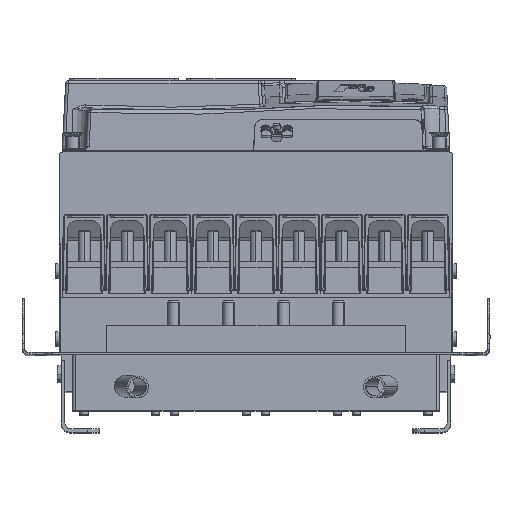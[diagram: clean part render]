
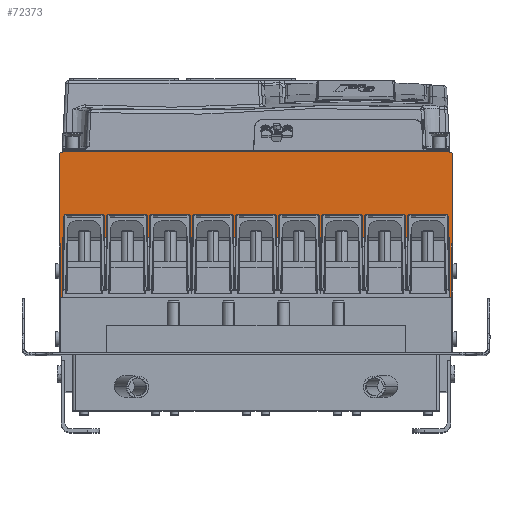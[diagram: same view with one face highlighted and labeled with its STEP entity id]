
A CAD part, top view. The second image highlights one B-rep face of the part: STEP entity #72373.
In plain terms, the highlighted planar face has unit normal (0, 0, 1).
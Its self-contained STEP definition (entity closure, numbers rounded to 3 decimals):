
#330 = VERTEX_POINT ( 'NONE', #54782 ) ;
#3951 = CIRCLE ( 'NONE', #24428, 3.5 ) ;
#4000 = VERTEX_POINT ( 'NONE', #108064 ) ;
#4849 = VECTOR ( 'NONE', #5092, 1000. ) ;
#5092 = DIRECTION ( 'NONE',  ( -1., 0., 0. ) ) ;
#6033 = DIRECTION ( 'NONE',  ( 0., 1., 0. ) ) ;
#7043 = ORIENTED_EDGE ( 'NONE', *, *, #45910, .F. ) ;
#7393 = DIRECTION ( 'NONE',  ( 0., -1., 0. ) ) ;
#7527 = DIRECTION ( 'NONE',  ( -1., 0., 0. ) ) ;
#7730 = EDGE_CURVE ( 'NONE', #330, #88858, #63757, .T. ) ;
#12007 = VERTEX_POINT ( 'NONE', #87050 ) ;
#21142 = EDGE_CURVE ( 'NONE', #92755, #93486, #83323, .T. ) ;
#23729 = CARTESIAN_POINT ( 'NONE',  ( 0., -167.9, 453. ) ) ;
#23741 = PLANE ( 'NONE',  #79884 ) ;
#24428 = AXIS2_PLACEMENT_3D ( 'NONE', #94845, #77978, #51209 ) ;
#25052 = LINE ( 'NONE', #113397, #26660 ) ;
#25277 = VERTEX_POINT ( 'NONE', #26948 ) ;
#25468 = EDGE_CURVE ( 'NONE', #48198, #4000, #25052, .T. ) ;
#26124 = EDGE_CURVE ( 'NONE', #93486, #88616, #56448, .T. ) ;
#26385 = CARTESIAN_POINT ( 'NONE',  ( -163.5, -77., 453. ) ) ;
#26660 = VECTOR ( 'NONE', #7527, 1000. ) ;
#26948 = CARTESIAN_POINT ( 'NONE',  ( 163.5, -167.9, 453. ) ) ;
#28229 = VERTEX_POINT ( 'NONE', #81840 ) ;
#32131 = LINE ( 'NONE', #82758, #111978 ) ;
#33055 = FACE_OUTER_BOUND ( 'NONE', #38982, .T. ) ;
#33531 = ORIENTED_EDGE ( 'NONE', *, *, #21142, .F. ) ;
#33619 = LINE ( 'NONE', #23729, #4849 ) ;
#34543 = EDGE_CURVE ( 'NONE', #25277, #12007, #33619, .T. ) ;
#36029 = CARTESIAN_POINT ( 'NONE',  ( 161.5, 0., 453. ) ) ;
#37633 = DIRECTION ( 'NONE',  ( 0., 1., 0. ) ) ;
#37872 = AXIS2_PLACEMENT_3D ( 'NONE', #110852, #100995, #110272 ) ;
#38982 = EDGE_LOOP ( 'NONE', ( #107328, #73425, #52433, #90345, #49913, #7043, #87471, #40156, #50443, #33531 ) ) ;
#40156 = ORIENTED_EDGE ( 'NONE', *, *, #91118, .T. ) ;
#42125 = CARTESIAN_POINT ( 'NONE',  ( 165., -3.5, 453. ) ) ;
#44540 = DIRECTION ( 'NONE',  ( 0., -1., 0. ) ) ;
#45910 = EDGE_CURVE ( 'NONE', #4000, #25277, #77262, .T. ) ;
#48198 = VERTEX_POINT ( 'NONE', #62671 ) ;
#49913 = ORIENTED_EDGE ( 'NONE', *, *, #34543, .F. ) ;
#50443 = ORIENTED_EDGE ( 'NONE', *, *, #26124, .F. ) ;
#51209 = DIRECTION ( 'NONE',  ( 0., 1., 0. ) ) ;
#51935 = VECTOR ( 'NONE', #7393, 1000. ) ;
#52433 = ORIENTED_EDGE ( 'NONE', *, *, #7730, .T. ) ;
#54782 = CARTESIAN_POINT ( 'NONE',  ( -165., -77., 453. ) ) ;
#54980 = EDGE_CURVE ( 'NONE', #28229, #92755, #3951, .T. ) ;
#56448 = CIRCLE ( 'NONE', #37872, 3.5 ) ;
#62671 = CARTESIAN_POINT ( 'NONE',  ( 165., -77., 453. ) ) ;
#63757 = LINE ( 'NONE', #109640, #87110 ) ;
#67932 = CARTESIAN_POINT ( 'NONE',  ( 163.5, 0., 453. ) ) ;
#72373 = ADVANCED_FACE ( 'NONE', ( #33055 ), #23741, .F. ) ;
#73425 = ORIENTED_EDGE ( 'NONE', *, *, #99372, .T. ) ;
#75183 = CARTESIAN_POINT ( 'NONE',  ( 0., 0., 453. ) ) ;
#75775 = DIRECTION ( 'NONE',  ( 0., 1., 0. ) ) ;
#76031 = EDGE_CURVE ( 'NONE', #12007, #88858, #32131, .T. ) ;
#76495 = VECTOR ( 'NONE', #44540, 1000. ) ;
#77056 = LINE ( 'NONE', #42125, #93007 ) ;
#77262 = LINE ( 'NONE', #67932, #51935 ) ;
#77978 = DIRECTION ( 'NONE',  ( 0., 0., -1. ) ) ;
#79884 = AXIS2_PLACEMENT_3D ( 'NONE', #114974, #81812, #37633 ) ;
#81812 = DIRECTION ( 'NONE',  ( 0., 0., -1. ) ) ;
#81840 = CARTESIAN_POINT ( 'NONE',  ( -165., -3.5, 453. ) ) ;
#82758 = CARTESIAN_POINT ( 'NONE',  ( -163.5, 0., 453. ) ) ;
#82945 = DIRECTION ( 'NONE',  ( 1., 0., 0. ) ) ;
#83323 = LINE ( 'NONE', #75183, #94913 ) ;
#87050 = CARTESIAN_POINT ( 'NONE',  ( -163.5, -167.9, 453. ) ) ;
#87110 = VECTOR ( 'NONE', #82945, 1000. ) ;
#87471 = ORIENTED_EDGE ( 'NONE', *, *, #25468, .F. ) ;
#88616 = VERTEX_POINT ( 'NONE', #99303 ) ;
#88745 = DIRECTION ( 'NONE',  ( 1., 0., 0. ) ) ;
#88858 = VERTEX_POINT ( 'NONE', #26385 ) ;
#90345 = ORIENTED_EDGE ( 'NONE', *, *, #76031, .F. ) ;
#91118 = EDGE_CURVE ( 'NONE', #48198, #88616, #77056, .T. ) ;
#92755 = VERTEX_POINT ( 'NONE', #101945 ) ;
#93007 = VECTOR ( 'NONE', #6033, 1000. ) ;
#93486 = VERTEX_POINT ( 'NONE', #36029 ) ;
#94845 = CARTESIAN_POINT ( 'NONE',  ( -161.5, -3.5, 453. ) ) ;
#94913 = VECTOR ( 'NONE', #88745, 1000. ) ;
#98617 = LINE ( 'NONE', #106167, #76495 ) ;
#99303 = CARTESIAN_POINT ( 'NONE',  ( 165., -3.5, 453. ) ) ;
#99372 = EDGE_CURVE ( 'NONE', #28229, #330, #98617, .T. ) ;
#100995 = DIRECTION ( 'NONE',  ( 0., 0., -1. ) ) ;
#101945 = CARTESIAN_POINT ( 'NONE',  ( -161.5, 0., 453. ) ) ;
#106167 = CARTESIAN_POINT ( 'NONE',  ( -165., -3.5, 453. ) ) ;
#107328 = ORIENTED_EDGE ( 'NONE', *, *, #54980, .F. ) ;
#108064 = CARTESIAN_POINT ( 'NONE',  ( 163.5, -77., 453. ) ) ;
#109640 = CARTESIAN_POINT ( 'NONE',  ( -165.001, -77., 453. ) ) ;
#110272 = DIRECTION ( 'NONE',  ( 0., 1., 0. ) ) ;
#110852 = CARTESIAN_POINT ( 'NONE',  ( 161.5, -3.5, 453. ) ) ;
#111978 = VECTOR ( 'NONE', #75775, 1000. ) ;
#113397 = CARTESIAN_POINT ( 'NONE',  ( 165.001, -77., 453. ) ) ;
#114974 = CARTESIAN_POINT ( 'NONE',  ( 0., 0., 453. ) ) ;
